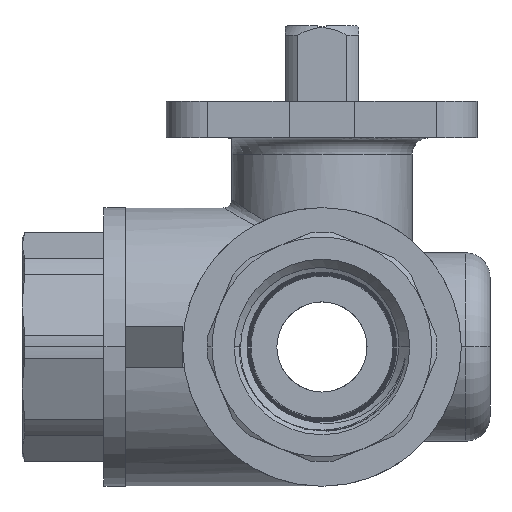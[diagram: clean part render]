
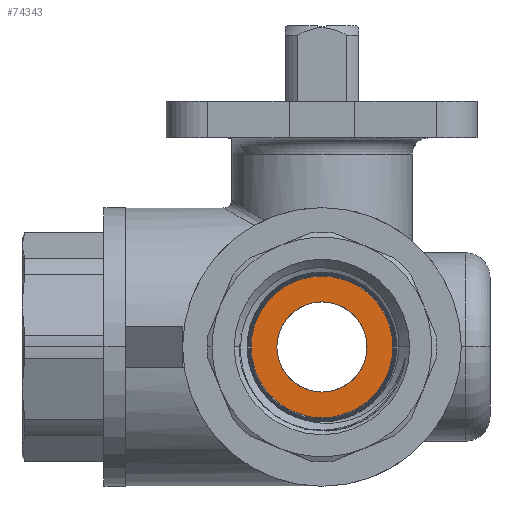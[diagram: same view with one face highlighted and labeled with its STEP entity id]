
A CAD part, left-side view. The second image highlights one B-rep face of the part: STEP entity #74343.
In plain terms, the highlighted planar face has unit normal (-1, 0, 0).
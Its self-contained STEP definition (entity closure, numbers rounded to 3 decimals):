
#59122 = VERTEX_POINT('',#59123);
#59123 = CARTESIAN_POINT('',(-35.578,-3.23,
    -23.199));
#59132 = CONICAL_SURFACE('',#59133,0.361,0.031);
#59133 = AXIS2_PLACEMENT_3D('',#59134,#59135,#59136);
#59134 = CARTESIAN_POINT('',(-36.206,-2.889,
    -23.199));
#59135 = DIRECTION('',(-1.,0.,0.));
#59136 = DIRECTION('',(0.,-1.,0.));
#59144 = CONICAL_SURFACE('',#59145,0.361,0.031);
#59145 = AXIS2_PLACEMENT_3D('',#59146,#59147,#59148);
#59146 = CARTESIAN_POINT('',(-36.206,-2.889,
    -23.199));
#59147 = DIRECTION('',(-1.,0.,0.));
#59148 = DIRECTION('',(0.,-1.,0.));
#59653 = VERTEX_POINT('',#59654);
#59654 = CARTESIAN_POINT('',(-35.578,-2.548,
    -23.199));
#59675 = EDGE_CURVE('',#59653,#59122,#59676,.T.);
#59676 = SURFACE_CURVE('',#59677,(#59682,#59689),.PCURVE_S1.);
#59677 = CIRCLE('',#59678,0.341);
#59678 = AXIS2_PLACEMENT_3D('',#59679,#59680,#59681);
#59679 = CARTESIAN_POINT('',(-35.578,-2.889,
    -23.199));
#59680 = DIRECTION('',(-1.,0.,0.));
#59681 = DIRECTION('',(0.,-1.,0.));
#59682 = PCURVE('',#59132,#59683);
#59683 = DEFINITIONAL_REPRESENTATION('',(#59684),#59688);
#59684 = LINE('',#59685,#59686);
#59685 = CARTESIAN_POINT('',(0.,-0.628));
#59686 = VECTOR('',#59687,1.);
#59687 = DIRECTION('',(1.,0.));
#59688 = ( GEOMETRIC_REPRESENTATION_CONTEXT(2) 
PARAMETRIC_REPRESENTATION_CONTEXT() REPRESENTATION_CONTEXT('2D SPACE',''
  ) );
#59689 = PCURVE('',#59690,#59695);
#59690 = PLANE('',#59691);
#59691 = AXIS2_PLACEMENT_3D('',#59692,#59693,#59694);
#59692 = CARTESIAN_POINT('',(-35.578,-2.889,
    -23.199));
#59693 = DIRECTION('',(1.,0.,0.));
#59694 = DIRECTION('',(0.,1.,0.));
#59695 = DEFINITIONAL_REPRESENTATION('',(#59696),#59704);
#59696 = ( BOUNDED_CURVE() B_SPLINE_CURVE(2,(#59697,#59698,#59699,#59700
    ,#59701,#59702,#59703),.UNSPECIFIED.,.T.,.F.) 
B_SPLINE_CURVE_WITH_KNOTS((1,2,2,2,2,1),(-2.094,0.,
    2.094,4.189,6.283,8.378),
.UNSPECIFIED.) CURVE() GEOMETRIC_REPRESENTATION_ITEM() 
RATIONAL_B_SPLINE_CURVE((1.,0.5,1.,0.5,1.,0.5,1.)) REPRESENTATION_ITEM(
  '') );
#59697 = CARTESIAN_POINT('',(-0.341,0.));
#59698 = CARTESIAN_POINT('',(-0.341,0.591));
#59699 = CARTESIAN_POINT('',(0.17,0.295));
#59700 = CARTESIAN_POINT('',(0.682,0.));
#59701 = CARTESIAN_POINT('',(0.17,-0.295));
#59702 = CARTESIAN_POINT('',(-0.341,-0.591));
#59703 = CARTESIAN_POINT('',(-0.341,0.));
#59704 = ( GEOMETRIC_REPRESENTATION_CONTEXT(2) 
PARAMETRIC_REPRESENTATION_CONTEXT() REPRESENTATION_CONTEXT('2D SPACE',''
  ) );
#67298 = VERTEX_POINT('',#67299);
#67299 = CARTESIAN_POINT('',(-35.578,-3.106,
    -23.199));
#67306 = CYLINDRICAL_SURFACE('',#67307,0.217);
#67307 = AXIS2_PLACEMENT_3D('',#67308,#67309,#67310);
#67308 = CARTESIAN_POINT('',(-36.267,-2.889,
    -23.199));
#67309 = DIRECTION('',(-1.,0.,0.));
#67310 = DIRECTION('',(0.,-1.,0.));
#67318 = CYLINDRICAL_SURFACE('',#67319,0.217);
#67319 = AXIS2_PLACEMENT_3D('',#67320,#67321,#67322);
#67320 = CARTESIAN_POINT('',(-36.267,-2.889,
    -23.199));
#67321 = DIRECTION('',(-1.,0.,0.));
#67322 = DIRECTION('',(0.,-1.,0.));
#67330 = EDGE_CURVE('',#67331,#67298,#67333,.T.);
#67331 = VERTEX_POINT('',#67332);
#67332 = CARTESIAN_POINT('',(-35.578,-2.673,
    -23.199));
#67333 = SURFACE_CURVE('',#67334,(#67339,#67346),.PCURVE_S1.);
#67334 = CIRCLE('',#67335,0.217);
#67335 = AXIS2_PLACEMENT_3D('',#67336,#67337,#67338);
#67336 = CARTESIAN_POINT('',(-35.578,-2.889,
    -23.199));
#67337 = DIRECTION('',(-1.,0.,0.));
#67338 = DIRECTION('',(0.,-1.,0.));
#67339 = PCURVE('',#67306,#67340);
#67340 = DEFINITIONAL_REPRESENTATION('',(#67341),#67345);
#67341 = LINE('',#67342,#67343);
#67342 = CARTESIAN_POINT('',(0.,-0.69));
#67343 = VECTOR('',#67344,1.);
#67344 = DIRECTION('',(1.,0.));
#67345 = ( GEOMETRIC_REPRESENTATION_CONTEXT(2) 
PARAMETRIC_REPRESENTATION_CONTEXT() REPRESENTATION_CONTEXT('2D SPACE',''
  ) );
#67346 = PCURVE('',#59690,#67347);
#67347 = DEFINITIONAL_REPRESENTATION('',(#67348),#67356);
#67348 = ( BOUNDED_CURVE() B_SPLINE_CURVE(2,(#67349,#67350,#67351,#67352
    ,#67353,#67354,#67355),.UNSPECIFIED.,.T.,.F.) 
B_SPLINE_CURVE_WITH_KNOTS((1,2,2,2,2,1),(-2.094,0.,
    2.094,4.189,6.283,8.378),
.UNSPECIFIED.) CURVE() GEOMETRIC_REPRESENTATION_ITEM() 
RATIONAL_B_SPLINE_CURVE((1.,0.5,1.,0.5,1.,0.5,1.)) REPRESENTATION_ITEM(
  '') );
#67349 = CARTESIAN_POINT('',(-0.217,0.));
#67350 = CARTESIAN_POINT('',(-0.217,0.375));
#67351 = CARTESIAN_POINT('',(0.108,0.188));
#67352 = CARTESIAN_POINT('',(0.433,0.));
#67353 = CARTESIAN_POINT('',(0.108,-0.188));
#67354 = CARTESIAN_POINT('',(-0.217,-0.375));
#67355 = CARTESIAN_POINT('',(-0.217,0.));
#67356 = ( GEOMETRIC_REPRESENTATION_CONTEXT(2) 
PARAMETRIC_REPRESENTATION_CONTEXT() REPRESENTATION_CONTEXT('2D SPACE',''
  ) );
#74318 = EDGE_CURVE('',#67298,#67331,#74319,.T.);
#74319 = SURFACE_CURVE('',#74320,(#74325,#74332),.PCURVE_S1.);
#74320 = CIRCLE('',#74321,0.217);
#74321 = AXIS2_PLACEMENT_3D('',#74322,#74323,#74324);
#74322 = CARTESIAN_POINT('',(-35.578,-2.889,
    -23.199));
#74323 = DIRECTION('',(-1.,0.,0.));
#74324 = DIRECTION('',(0.,-1.,0.));
#74325 = PCURVE('',#67318,#74326);
#74326 = DEFINITIONAL_REPRESENTATION('',(#74327),#74331);
#74327 = LINE('',#74328,#74329);
#74328 = CARTESIAN_POINT('',(0.,-0.69));
#74329 = VECTOR('',#74330,1.);
#74330 = DIRECTION('',(1.,0.));
#74331 = ( GEOMETRIC_REPRESENTATION_CONTEXT(2) 
PARAMETRIC_REPRESENTATION_CONTEXT() REPRESENTATION_CONTEXT('2D SPACE',''
  ) );
#74332 = PCURVE('',#59690,#74333);
#74333 = DEFINITIONAL_REPRESENTATION('',(#74334),#74342);
#74334 = ( BOUNDED_CURVE() B_SPLINE_CURVE(2,(#74335,#74336,#74337,#74338
    ,#74339,#74340,#74341),.UNSPECIFIED.,.T.,.F.) 
B_SPLINE_CURVE_WITH_KNOTS((1,2,2,2,2,1),(-2.094,0.,
    2.094,4.189,6.283,8.378),
.UNSPECIFIED.) CURVE() GEOMETRIC_REPRESENTATION_ITEM() 
RATIONAL_B_SPLINE_CURVE((1.,0.5,1.,0.5,1.,0.5,1.)) REPRESENTATION_ITEM(
  '') );
#74335 = CARTESIAN_POINT('',(-0.217,0.));
#74336 = CARTESIAN_POINT('',(-0.217,0.375));
#74337 = CARTESIAN_POINT('',(0.108,0.188));
#74338 = CARTESIAN_POINT('',(0.433,0.));
#74339 = CARTESIAN_POINT('',(0.108,-0.188));
#74340 = CARTESIAN_POINT('',(-0.217,-0.375));
#74341 = CARTESIAN_POINT('',(-0.217,0.));
#74342 = ( GEOMETRIC_REPRESENTATION_CONTEXT(2) 
PARAMETRIC_REPRESENTATION_CONTEXT() REPRESENTATION_CONTEXT('2D SPACE',''
  ) );
#74343 = ADVANCED_FACE('',(#74344,#74348),#59690,.F.);
#74344 = FACE_BOUND('',#74345,.T.);
#74345 = EDGE_LOOP('',(#74346,#74347));
#74346 = ORIENTED_EDGE('',*,*,#74318,.F.);
#74347 = ORIENTED_EDGE('',*,*,#67330,.F.);
#74348 = FACE_BOUND('',#74349,.T.);
#74349 = EDGE_LOOP('',(#74350,#74376));
#74350 = ORIENTED_EDGE('',*,*,#74351,.T.);
#74351 = EDGE_CURVE('',#59122,#59653,#74352,.T.);
#74352 = SURFACE_CURVE('',#74353,(#74358,#74369),.PCURVE_S1.);
#74353 = CIRCLE('',#74354,0.341);
#74354 = AXIS2_PLACEMENT_3D('',#74355,#74356,#74357);
#74355 = CARTESIAN_POINT('',(-35.578,-2.889,
    -23.199));
#74356 = DIRECTION('',(-1.,0.,0.));
#74357 = DIRECTION('',(0.,-1.,0.));
#74358 = PCURVE('',#59690,#74359);
#74359 = DEFINITIONAL_REPRESENTATION('',(#74360),#74368);
#74360 = ( BOUNDED_CURVE() B_SPLINE_CURVE(2,(#74361,#74362,#74363,#74364
    ,#74365,#74366,#74367),.UNSPECIFIED.,.T.,.F.) 
B_SPLINE_CURVE_WITH_KNOTS((1,2,2,2,2,1),(-2.094,0.,
    2.094,4.189,6.283,8.378),
.UNSPECIFIED.) CURVE() GEOMETRIC_REPRESENTATION_ITEM() 
RATIONAL_B_SPLINE_CURVE((1.,0.5,1.,0.5,1.,0.5,1.)) REPRESENTATION_ITEM(
  '') );
#74361 = CARTESIAN_POINT('',(-0.341,0.));
#74362 = CARTESIAN_POINT('',(-0.341,0.591));
#74363 = CARTESIAN_POINT('',(0.17,0.295));
#74364 = CARTESIAN_POINT('',(0.682,0.));
#74365 = CARTESIAN_POINT('',(0.17,-0.295));
#74366 = CARTESIAN_POINT('',(-0.341,-0.591));
#74367 = CARTESIAN_POINT('',(-0.341,0.));
#74368 = ( GEOMETRIC_REPRESENTATION_CONTEXT(2) 
PARAMETRIC_REPRESENTATION_CONTEXT() REPRESENTATION_CONTEXT('2D SPACE',''
  ) );
#74369 = PCURVE('',#59144,#74370);
#74370 = DEFINITIONAL_REPRESENTATION('',(#74371),#74375);
#74371 = LINE('',#74372,#74373);
#74372 = CARTESIAN_POINT('',(0.,-0.628));
#74373 = VECTOR('',#74374,1.);
#74374 = DIRECTION('',(1.,0.));
#74375 = ( GEOMETRIC_REPRESENTATION_CONTEXT(2) 
PARAMETRIC_REPRESENTATION_CONTEXT() REPRESENTATION_CONTEXT('2D SPACE',''
  ) );
#74376 = ORIENTED_EDGE('',*,*,#59675,.T.);
